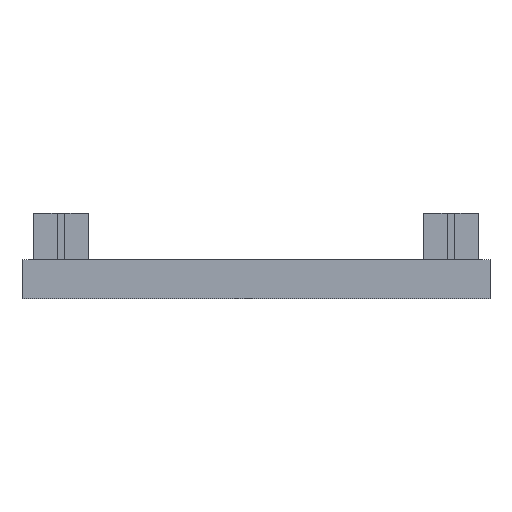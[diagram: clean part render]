
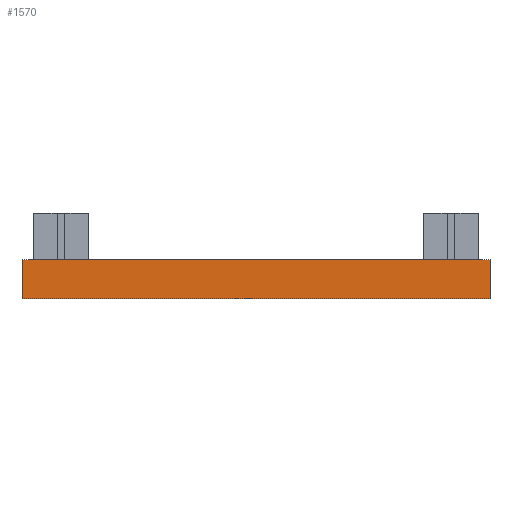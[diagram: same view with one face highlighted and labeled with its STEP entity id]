
A CAD part, left-side view. The second image highlights one B-rep face of the part: STEP entity #1570.
In plain terms, the highlighted planar face has unit normal (-1, 0, 0).
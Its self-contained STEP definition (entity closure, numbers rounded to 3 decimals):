
#90 = FACE_OUTER_BOUND ( 'NONE', #1784, .T. ) ;
#138 = DIRECTION ( 'NONE',  ( 1., 0., 0. ) ) ;
#142 = AXIS2_PLACEMENT_3D ( 'NONE', #360, #138, #1933 ) ;
#360 = CARTESIAN_POINT ( 'NONE',  ( -30., 30., 2.5 ) ) ;
#413 = ORIENTED_EDGE ( 'NONE', *, *, #1185, .F. ) ;
#474 = CARTESIAN_POINT ( 'NONE',  ( -30., -30., 2.5 ) ) ;
#525 = VECTOR ( 'NONE', #746, 1000. ) ;
#669 = DIRECTION ( 'NONE',  ( 0., 0., -1. ) ) ;
#746 = DIRECTION ( 'NONE',  ( 0., -1., 0. ) ) ;
#789 = VERTEX_POINT ( 'NONE', #1564 ) ;
#815 = EDGE_CURVE ( 'NONE', #789, #1319, #1721, .T. ) ;
#830 = VECTOR ( 'NONE', #1086, 1000. ) ;
#832 = EDGE_CURVE ( 'NONE', #951, #1521, #1075, .T. ) ;
#877 = CARTESIAN_POINT ( 'NONE',  ( -30., -30., 2.5 ) ) ;
#912 = ORIENTED_EDGE ( 'NONE', *, *, #1660, .T. ) ;
#944 = CARTESIAN_POINT ( 'NONE',  ( -30., 30., -2.5 ) ) ;
#951 = VERTEX_POINT ( 'NONE', #474 ) ;
#992 = VECTOR ( 'NONE', #1316, 1000. ) ;
#1075 = LINE ( 'NONE', #877, #1738 ) ;
#1086 = DIRECTION ( 'NONE',  ( 0., -1., 0. ) ) ;
#1143 = LINE ( 'NONE', #944, #525 ) ;
#1180 = PLANE ( 'NONE',  #142 ) ;
#1185 = EDGE_CURVE ( 'NONE', #789, #951, #1486, .T. ) ;
#1282 = CARTESIAN_POINT ( 'NONE',  ( -30., 30., 2.5 ) ) ;
#1287 = ORIENTED_EDGE ( 'NONE', *, *, #815, .T. ) ;
#1316 = DIRECTION ( 'NONE',  ( 0., 0., -1. ) ) ;
#1319 = VERTEX_POINT ( 'NONE', #1961 ) ;
#1486 = LINE ( 'NONE', #1282, #830 ) ;
#1519 = CARTESIAN_POINT ( 'NONE',  ( -30., 30., 2.5 ) ) ;
#1521 = VERTEX_POINT ( 'NONE', #1826 ) ;
#1564 = CARTESIAN_POINT ( 'NONE',  ( -30., 30., 2.5 ) ) ;
#1570 = ADVANCED_FACE ( 'NONE', ( #90 ), #1180, .F. ) ;
#1660 = EDGE_CURVE ( 'NONE', #1319, #1521, #1143, .T. ) ;
#1684 = ORIENTED_EDGE ( 'NONE', *, *, #832, .F. ) ;
#1721 = LINE ( 'NONE', #1519, #992 ) ;
#1738 = VECTOR ( 'NONE', #669, 1000. ) ;
#1784 = EDGE_LOOP ( 'NONE', ( #912, #1684, #413, #1287 ) ) ;
#1826 = CARTESIAN_POINT ( 'NONE',  ( -30., -30., -2.5 ) ) ;
#1933 = DIRECTION ( 'NONE',  ( 0., 1., 0. ) ) ;
#1961 = CARTESIAN_POINT ( 'NONE',  ( -30., 30., -2.5 ) ) ;
